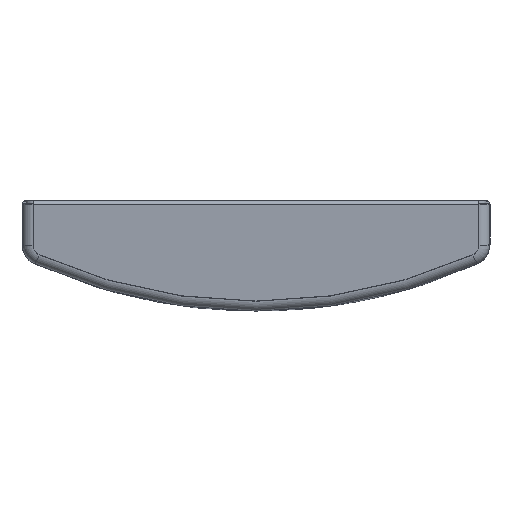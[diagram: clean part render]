
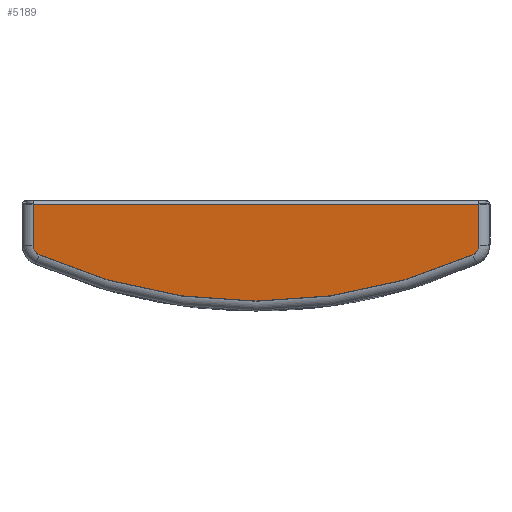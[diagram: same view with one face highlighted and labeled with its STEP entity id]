
A CAD part, front view. The second image highlights one B-rep face of the part: STEP entity #5189.
In plain terms, the highlighted planar face has unit normal (0, -0.996, -0.087) as drawn and (0, -1, 0) by its records, which use the part's own axes.
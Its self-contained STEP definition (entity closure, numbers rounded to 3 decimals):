
#201 = DIRECTION ( 'NONE',  ( 0., 0., 1. ) ) ;
#234 = AXIS2_PLACEMENT_3D ( 'NONE', #6517, #5927, #3729 ) ;
#280 = CARTESIAN_POINT ( 'NONE',  ( -206.162, 0., -37.876 ) ) ;
#463 = EDGE_CURVE ( 'NONE', #5084, #6334, #3323, .T. ) ;
#521 = CARTESIAN_POINT ( 'NONE',  ( 200.46, 0., -46.689 ) ) ;
#633 = AXIS2_PLACEMENT_3D ( 'NONE', #7025, #2491, #4206 ) ;
#768 = FACE_OUTER_BOUND ( 'NONE', #6308, .T. ) ;
#887 = CARTESIAN_POINT ( 'NONE',  ( -206.162, 0., 0. ) ) ;
#1058 = CARTESIAN_POINT ( 'NONE',  ( 206.162, 0., 0. ) ) ;
#1316 = EDGE_CURVE ( 'NONE', #4485, #2257, #3757, .T. ) ;
#1341 = LINE ( 'NONE', #1058, #4432 ) ;
#1349 = LINE ( 'NONE', #5241, #5753 ) ;
#1398 = DIRECTION ( 'NONE',  ( 1., 0., 0. ) ) ;
#1593 = DIRECTION ( 'NONE',  ( 0., 0., 1. ) ) ;
#1831 = CARTESIAN_POINT ( 'NONE',  ( 206.162, 0., -37.876 ) ) ;
#1889 = EDGE_CURVE ( 'NONE', #6334, #4188, #1349, .T. ) ;
#1985 = AXIS2_PLACEMENT_3D ( 'NONE', #3283, #2743, #1593 ) ;
#2222 = EDGE_CURVE ( 'NONE', #3506, #4485, #1341, .T. ) ;
#2234 = DIRECTION ( 'NONE',  ( 0., 0., -1. ) ) ;
#2257 = VERTEX_POINT ( 'NONE', #521 ) ;
#2491 = DIRECTION ( 'NONE',  ( 0., -1., 0. ) ) ;
#2514 = PLANE ( 'NONE',  #633 ) ;
#2699 = DIRECTION ( 'NONE',  ( 0., 1., 0. ) ) ;
#2743 = DIRECTION ( 'NONE',  ( 0., 1., 0. ) ) ;
#2794 = CARTESIAN_POINT ( 'NONE',  ( 206.162, 0., 0. ) ) ;
#2833 = LINE ( 'NONE', #6855, #6172 ) ;
#3283 = CARTESIAN_POINT ( 'NONE',  ( -196.5, 0., -37.876 ) ) ;
#3323 = CIRCLE ( 'NONE', #1985, 9.662 ) ;
#3501 = ORIENTED_EDGE ( 'NONE', *, *, #463, .F. ) ;
#3505 = AXIS2_PLACEMENT_3D ( 'NONE', #6586, #2699, #3767 ) ;
#3506 = VERTEX_POINT ( 'NONE', #2794 ) ;
#3729 = DIRECTION ( 'NONE',  ( 0., 0., 1. ) ) ;
#3757 = CIRCLE ( 'NONE', #3505, 9.662 ) ;
#3767 = DIRECTION ( 'NONE',  ( 0., 0., 1. ) ) ;
#3864 = CIRCLE ( 'NONE', #234, 489.042 ) ;
#4188 = VERTEX_POINT ( 'NONE', #887 ) ;
#4206 = DIRECTION ( 'NONE',  ( 0., 0., -1. ) ) ;
#4383 = ORIENTED_EDGE ( 'NONE', *, *, #7099, .F. ) ;
#4432 = VECTOR ( 'NONE', #2234, 1000. ) ;
#4485 = VERTEX_POINT ( 'NONE', #1831 ) ;
#4542 = ORIENTED_EDGE ( 'NONE', *, *, #6056, .F. ) ;
#4817 = ORIENTED_EDGE ( 'NONE', *, *, #1316, .F. ) ;
#5084 = VERTEX_POINT ( 'NONE', #6930 ) ;
#5189 = ADVANCED_FACE ( 'NONE', ( #768 ), #2514, .T. ) ;
#5241 = CARTESIAN_POINT ( 'NONE',  ( -206.162, 0., -37.876 ) ) ;
#5753 = VECTOR ( 'NONE', #201, 1000. ) ;
#5927 = DIRECTION ( 'NONE',  ( 0., 1., 0. ) ) ;
#6056 = EDGE_CURVE ( 'NONE', #4188, #3506, #2833, .T. ) ;
#6169 = ORIENTED_EDGE ( 'NONE', *, *, #1889, .F. ) ;
#6172 = VECTOR ( 'NONE', #1398, 1000. ) ;
#6308 = EDGE_LOOP ( 'NONE', ( #6169, #3501, #4383, #4817, #7319, #4542 ) ) ;
#6334 = VERTEX_POINT ( 'NONE', #280 ) ;
#6517 = CARTESIAN_POINT ( 'NONE',  ( 0., 0., 399.38 ) ) ;
#6586 = CARTESIAN_POINT ( 'NONE',  ( 196.5, 0., -37.876 ) ) ;
#6855 = CARTESIAN_POINT ( 'NONE',  ( -215.5, 0., 0. ) ) ;
#6930 = CARTESIAN_POINT ( 'NONE',  ( -200.46, 0., -46.689 ) ) ;
#7025 = CARTESIAN_POINT ( 'NONE',  ( 0., 0., 399.38 ) ) ;
#7099 = EDGE_CURVE ( 'NONE', #2257, #5084, #3864, .T. ) ;
#7319 = ORIENTED_EDGE ( 'NONE', *, *, #2222, .F. ) ;
